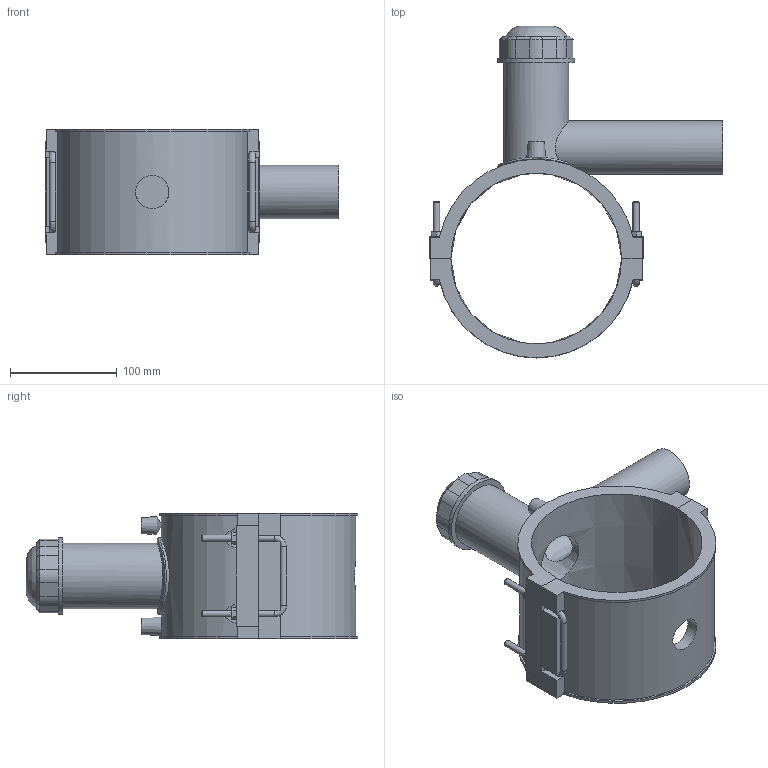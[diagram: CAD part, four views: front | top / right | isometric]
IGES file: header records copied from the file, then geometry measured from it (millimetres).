
Global section: file name: 496304160050.ipt; native system: Autodesk Inventor 2015; preprocessor: unknown; author: KIM; date: 20190124.131037; units: millimetre
Bounding box: 275.5 x 311.02 x 118 mm (x, y, z)
Volume: 1085518.5 mm3; surface area: 250837.4 mm2
Topology: 2 solids, 2 shells, 181 faces, 466 edges, 303 vertices
Faces by surface type: plane 110, cylinder 32, revolution 20, cone 14, bspline 5
Full cylindrical faces by diameter (mm): 4 x2, 6 x10, 50 x1, 61.2 x1, 72 x1
